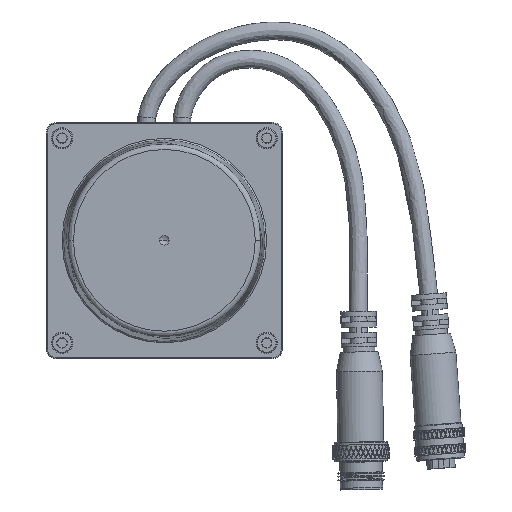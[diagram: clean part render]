
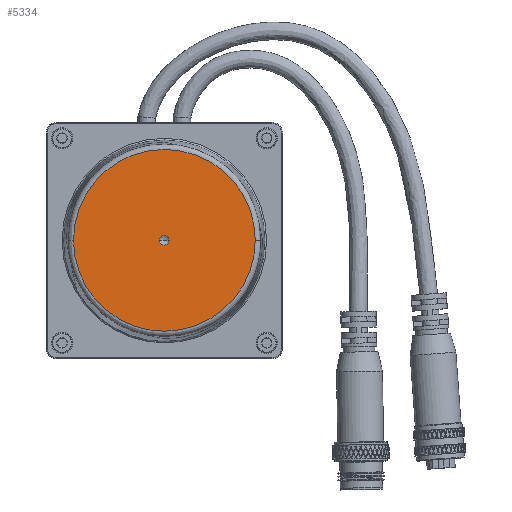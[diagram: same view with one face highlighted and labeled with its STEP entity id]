
A CAD part, top view. The second image highlights one B-rep face of the part: STEP entity #5334.
In plain terms, the highlighted planar face has unit normal (0, 0, 1) as drawn and (0, 1, 0) by its records, which use the part's own axes.
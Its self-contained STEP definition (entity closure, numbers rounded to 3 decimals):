
#5334=ADVANCED_FACE('',(#10340,#5541),#78746,.T.);
#5541=FACE_BOUND('',#15346,.T.);
#10340=FACE_OUTER_BOUND('',#15345,.T.);
#15345=EDGE_LOOP('',(#40041,#40042,#40043,#40044));
#15346=EDGE_LOOP('',(#40045,#40046));
#40041=ORIENTED_EDGE('',*,*,#52614,.F.);
#40042=ORIENTED_EDGE('',*,*,#52607,.F.);
#40043=ORIENTED_EDGE('',*,*,#52608,.F.);
#40044=ORIENTED_EDGE('',*,*,#52613,.F.);
#40045=ORIENTED_EDGE('',*,*,#52618,.T.);
#40046=ORIENTED_EDGE('',*,*,#52615,.T.);
#52607=EDGE_CURVE('',#74262,#74261,#54124,.T.);
#52608=EDGE_CURVE('',#74263,#74262,#54125,.T.);
#52613=EDGE_CURVE('',#74266,#74263,#54130,.T.);
#52614=EDGE_CURVE('',#74261,#74266,#54131,.T.);
#52615=EDGE_CURVE('',#74267,#74268,#54132,.T.);
#52618=EDGE_CURVE('',#74268,#74267,#54135,.T.);
#54124=TRIMMED_CURVE($,#55617,(#153501),(#153502),.T.,.CARTESIAN.);
#54125=TRIMMED_CURVE($,#55618,(#153504),(#153505),.T.,.CARTESIAN.);
#54130=TRIMMED_CURVE($,#55623,(#153519),(#153520),.T.,.CARTESIAN.);
#54131=TRIMMED_CURVE($,#55624,(#153522),(#153523),.T.,.CARTESIAN.);
#54132=TRIMMED_CURVE($,#55625,(#153525),(#153526),.T.,.CARTESIAN.);
#54135=TRIMMED_CURVE($,#55628,(#153534),(#153535),.T.,.CARTESIAN.);
#55617=CIRCLE('',#86311,25.759);
#55618=CIRCLE('',#86312,25.759);
#55623=CIRCLE('',#86317,25.759);
#55624=CIRCLE('',#86318,25.759);
#55625=CIRCLE('',#86319,1.323);
#55628=CIRCLE('',#86322,1.323);
#74261=VERTEX_POINT('',#153199);
#74262=VERTEX_POINT('',#153200);
#74263=VERTEX_POINT('',#153201);
#74266=VERTEX_POINT('',#153204);
#74267=VERTEX_POINT('',#153205);
#74268=VERTEX_POINT('',#153206);
#78746=PLANE('',#86248);
#86248=AXIS2_PLACEMENT_3D('',#153030,#93714,$);
#86311=AXIS2_PLACEMENT_3D($,#153500,#93839,#93840);
#86312=AXIS2_PLACEMENT_3D($,#153503,#93841,#93842);
#86317=AXIS2_PLACEMENT_3D($,#153518,#93851,#93852);
#86318=AXIS2_PLACEMENT_3D($,#153521,#93853,#93854);
#86319=AXIS2_PLACEMENT_3D($,#153524,#93855,#93856);
#86322=AXIS2_PLACEMENT_3D($,#153533,#93861,#93862);
#93714=DIRECTION('',(0.,1.,0.));
#93839=DIRECTION('',(0.,-1.,0.));
#93840=DIRECTION('',(-1.,0.,0.006));
#93841=DIRECTION('',(0.,-1.,0.));
#93842=DIRECTION('',(1.,0.,0.));
#93851=DIRECTION('',(0.,-1.,0.));
#93852=DIRECTION('',(1.,0.,-0.006));
#93853=DIRECTION('',(0.,-1.,0.));
#93854=DIRECTION('',(-1.,0.,0.));
#93855=DIRECTION('',(0.,-1.,0.));
#93856=DIRECTION('',(-1.,0.,0.));
#93861=DIRECTION('',(0.,-1.,0.));
#93862=DIRECTION('',(1.,0.,0.));
#153030=CARTESIAN_POINT('',(-31.036,37.,-31.129));
#153199=CARTESIAN_POINT('',(-25.759,37.,0.));
#153200=CARTESIAN_POINT('',(-25.759,37.,0.155));
#153201=CARTESIAN_POINT('',(25.759,37.,0.));
#153204=CARTESIAN_POINT('',(25.759,37.,-0.155));
#153205=CARTESIAN_POINT('',(-1.323,37.,0.));
#153206=CARTESIAN_POINT('',(1.323,37.,0.));
#153500=CARTESIAN_POINT('',(0.,37.,0.));
#153501=CARTESIAN_POINT('',(-25.759,37.,0.155));
#153502=CARTESIAN_POINT('',(-25.759,37.,0.));
#153503=CARTESIAN_POINT('',(0.,37.,0.));
#153504=CARTESIAN_POINT('',(25.759,37.,0.));
#153505=CARTESIAN_POINT('',(-25.759,37.,0.155));
#153518=CARTESIAN_POINT('',(0.,37.,0.));
#153519=CARTESIAN_POINT('',(25.759,37.,-0.155));
#153520=CARTESIAN_POINT('',(25.759,37.,0.));
#153521=CARTESIAN_POINT('',(0.,37.,0.));
#153522=CARTESIAN_POINT('',(-25.759,37.,0.));
#153523=CARTESIAN_POINT('',(25.759,37.,-0.155));
#153524=CARTESIAN_POINT('',(0.,37.,0.));
#153525=CARTESIAN_POINT('',(-1.323,37.,0.));
#153526=CARTESIAN_POINT('',(1.323,37.,0.));
#153533=CARTESIAN_POINT('',(0.,37.,0.));
#153534=CARTESIAN_POINT('',(1.323,37.,0.));
#153535=CARTESIAN_POINT('',(-1.323,37.,0.));
